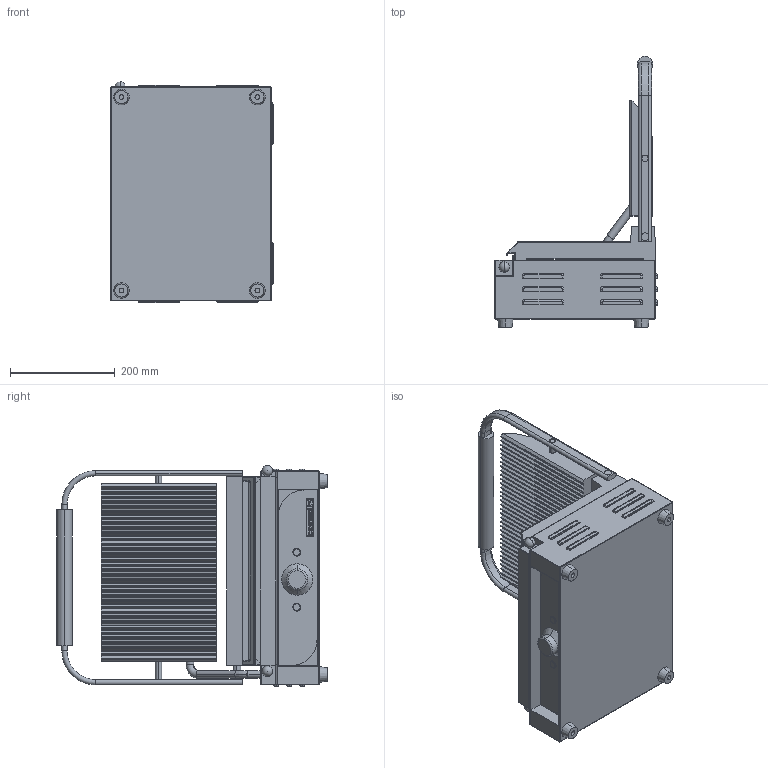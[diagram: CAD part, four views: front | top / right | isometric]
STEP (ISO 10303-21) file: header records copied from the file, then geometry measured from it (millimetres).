
FILE_DESCRIPTION (( 'STEP AP214' ), '1' );
FILE_NAME ('pres-CGPRL.STEP', '2025-01-02T09:26:39', ( '' ), ( '' ), 'SwSTEP 2.0', 'SolidWorks 2025', '' );
FILE_SCHEMA (( 'AUTOMOTIVE_DESIGN' ));
Length unit declared in the file: millimetre
Products named in the file (21): Pied-chassis-panini; Bouton-commande-panini; angle-logo-bleu_panini; Bouton-temp-panini; LOGO-CASSELIN-panini; Barre-maintient-panini; Poignee-main-panini; Plaque-haut-panini-av-rainure; Barre-rotation-panini; Plaque-bas-panini-ss-rainure; logo-casselin-panini; Bloc-principal-panini; poignee-bac-de-recup-panini; Poignee-panini; tole-bac-recup-panini; Base-logo_panini; pres-CGPRL; bac-recup-panini; Chassis-pied-panini; Poignee-armature-panini; Barre-rotation-axe-panini
Assembly tree (26 placements, depth 4):
  pres-CGPRL
    Chassis-pied-panini
      Bloc-principal-panini
      Pied-chassis-panini  x4
      logo-casselin-panini
        Base-logo_panini
        angle-logo-bleu_panini  x2
        LOGO-CASSELIN-panini
    Plaque-bas-panini-ss-rainure
    bac-recup-panini
      tole-bac-recup-panini
      poignee-bac-de-recup-panini  x2
    Poignee-panini
      Poignee-armature-panini
      Poignee-main-panini
      Barre-maintient-panini
      Barre-rotation-axe-panini
    Barre-rotation-panini
    Bouton-temp-panini
    Bouton-commande-panini  x2
    Plaque-haut-panini-av-rainure
Bounding box: 310.01 x 518 x 422.8 mm (x, y, z)
Volume: 6141720.9 mm3; surface area: 1705340.9 mm2
Topology: 34 solids, 34 shells, 1040 faces, 2626 edges, 1642 vertices
Faces by surface type: plane 541, cylinder 366, torus 92, bspline 17, cone 16, sphere 8
Entity records: 33535 total; most frequent: CARTESIAN_POINT 5954, DIRECTION 5406, ORIENTED_EDGE 5090, EDGE_CURVE 2545, AXIS2_PLACEMENT_3D 1893, LINE 1620, VECTOR 1620, VERTEX_POINT 1593
